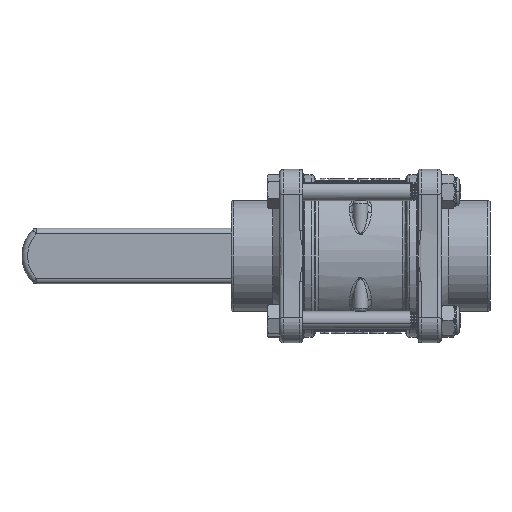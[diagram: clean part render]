
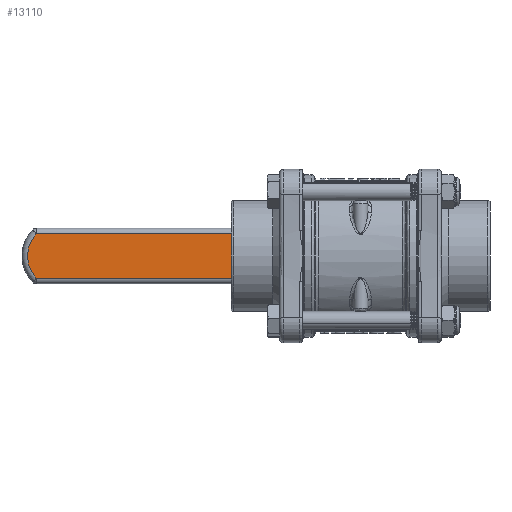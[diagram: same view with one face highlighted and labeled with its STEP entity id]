
A CAD part, front view. The second image highlights one B-rep face of the part: STEP entity #13110.
In plain terms, the highlighted planar face has unit normal (0, -1, 0).
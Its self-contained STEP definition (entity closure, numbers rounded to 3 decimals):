
#5029 = EDGE_LOOP ( 'NONE', ( #49836, #49839, #49842, #49845 ) ) ;
#8790 = AXIS2_PLACEMENT_3D ( 'NONE', #59455, #59473, #59475 ) ;
#10711 = VERTEX_POINT ( 'NONE', #30187 ) ;
#10713 = VERTEX_POINT ( 'NONE', #30191 ) ;
#11341 = EDGE_CURVE ( 'NONE', #28899, #41642, #31411, .T. ) ;
#13110 = ADVANCED_FACE ( 'NONE', ( #56278 ), #59467, .F. ) ;
#25196 = AXIS2_PLACEMENT_3D ( 'NONE', #74138, #74139, #74140 ) ;
#28899 = VERTEX_POINT ( 'NONE', #67355 ) ;
#30187 = CARTESIAN_POINT ( 'NONE',  ( 88.547, -3., 9.75 ) ) ;
#30191 = CARTESIAN_POINT ( 'NONE',  ( 88.547, -3., -9.75 ) ) ;
#31411 = LINE ( 'NONE', #78604, #31414 ) ;
#31414 = VECTOR ( 'NONE', #78600, 1000. ) ;
#41642 = VERTEX_POINT ( 'NONE', #68350 ) ;
#49836 = ORIENTED_EDGE ( 'NONE', *, *, #50623, .F. ) ;
#49839 = ORIENTED_EDGE ( 'NONE', *, *, #50626, .T. ) ;
#49842 = ORIENTED_EDGE ( 'NONE', *, *, #50615, .T. ) ;
#49845 = ORIENTED_EDGE ( 'NONE', *, *, #11341, .T. ) ;
#50615 = EDGE_CURVE ( 'NONE', #10711, #28899, #62691, .T. ) ;
#50623 = EDGE_CURVE ( 'NONE', #10713, #41642, #62697, .T. ) ;
#50626 = EDGE_CURVE ( 'NONE', #10713, #10711, #62700, .T. ) ;
#56278 = FACE_OUTER_BOUND ( 'NONE', #5029, .T. ) ;
#59455 = CARTESIAN_POINT ( 'NONE',  ( 95., -3., -9.75 ) ) ;
#59467 = PLANE ( 'NONE',  #8790 ) ;
#59473 = DIRECTION ( 'NONE',  ( 0., 1., 0. ) ) ;
#59475 = DIRECTION ( 'NONE',  ( 0., 0., 1. ) ) ;
#62691 = LINE ( 'NONE', #74128, #62698 ) ;
#62697 = LINE ( 'NONE', #74131, #62701 ) ;
#62698 = VECTOR ( 'NONE', #74130, 1000. ) ;
#62700 = CIRCLE ( 'NONE', #25196, 14. ) ;
#62701 = VECTOR ( 'NONE', #74132, 1000. ) ;
#67355 = CARTESIAN_POINT ( 'NONE',  ( 0., -3., 9.75 ) ) ;
#68350 = CARTESIAN_POINT ( 'NONE',  ( 0., -3., -9.75 ) ) ;
#74128 = CARTESIAN_POINT ( 'NONE',  ( 95., -3., 9.75 ) ) ;
#74130 = DIRECTION ( 'NONE',  ( -1., 0., 0. ) ) ;
#74131 = CARTESIAN_POINT ( 'NONE',  ( 95., -3., -9.75 ) ) ;
#74132 = DIRECTION ( 'NONE',  ( -1., 0., 0. ) ) ;
#74138 = CARTESIAN_POINT ( 'NONE',  ( 78.5, -3., 0. ) ) ;
#74139 = DIRECTION ( 'NONE',  ( 0., -1., 0. ) ) ;
#74140 = DIRECTION ( 'NONE',  ( 0., 0., 1. ) ) ;
#78600 = DIRECTION ( 'NONE',  ( 0., 0., -1. ) ) ;
#78604 = CARTESIAN_POINT ( 'NONE',  ( 0., -3., -9.75 ) ) ;
